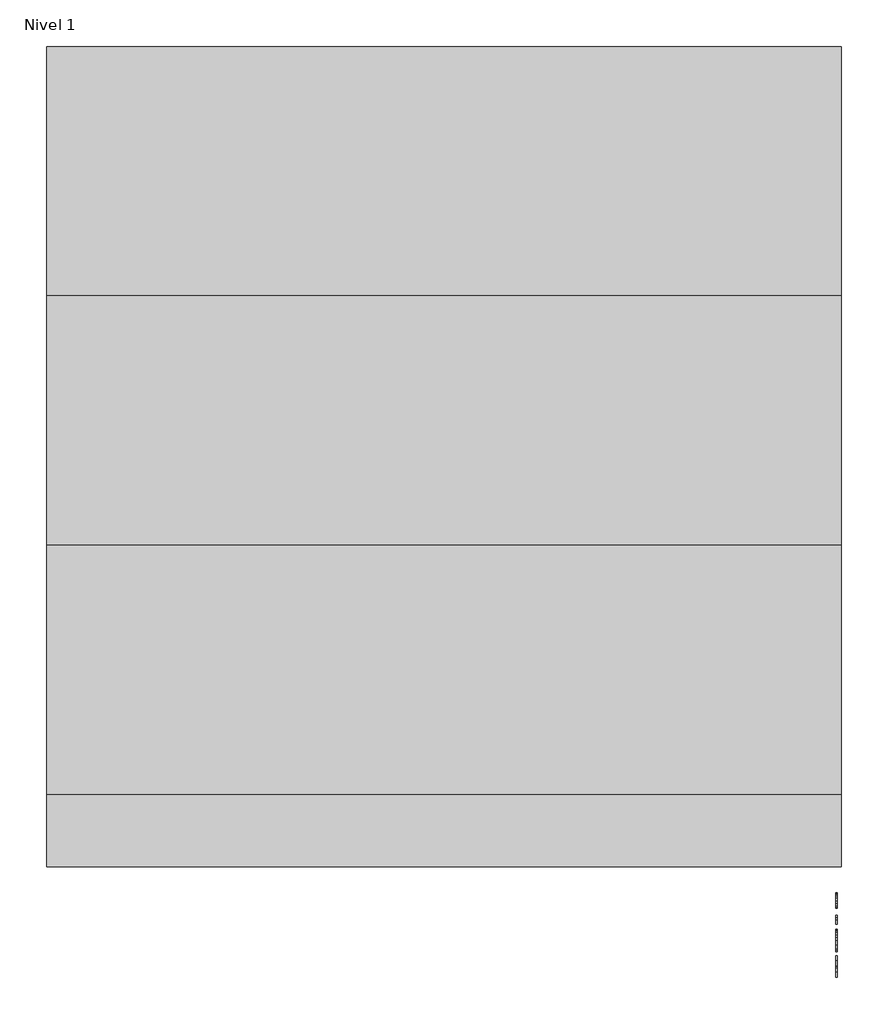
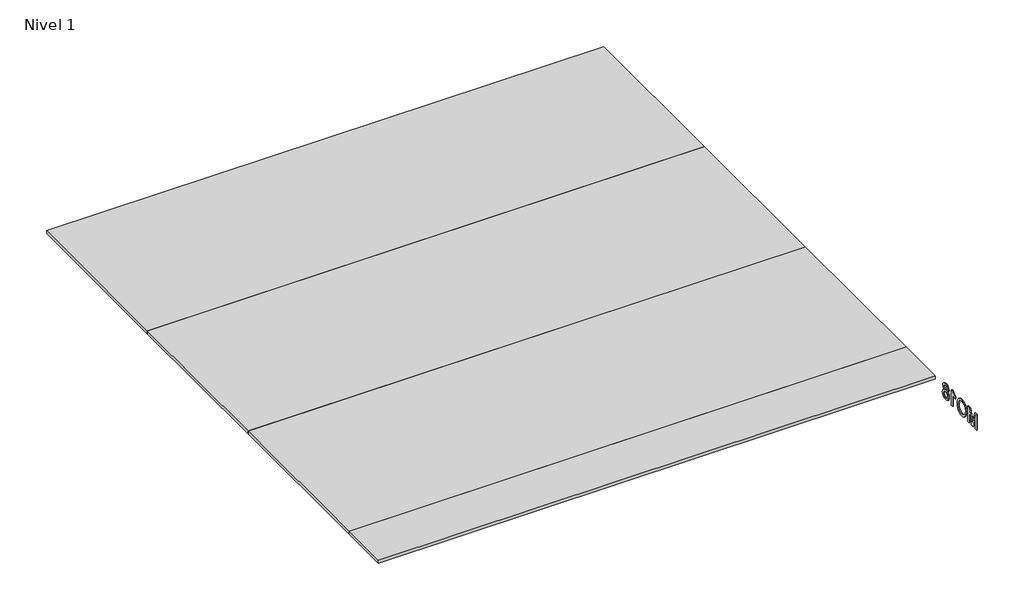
# One storey: 4 plates, 1 proxy.
"""IFC4 building model written with IfcOpenShell, lengths in millimetres."""

import ifcopenshell
import ifcopenshell.guid

model = None  # the IFC model being written
_history = None  # IfcOwnerHistory: only IFC2X3 demands one
_inside = {}  # id of a spatial element -> (the spatial element, [elements in it])
_under = {}  # id of a project, library or spatial element -> (it, [spatial elements below it])
_declared = {}  # id of a project -> (the project, [libraries it declares])
_typed = {}  # id of a type object -> (the type object, [elements of that type])
_made_of = {}  # id of a material, layer set ... -> (it, [elements and type objects made of it])


def new_model(schema):
    """Start an empty IFC model of exactly this schema.

    Asked for "IFC4X3", IfcOpenShell would pick the latest addendum, in which some entities
    have other attributes; the version numbers below select the first issue.
    IFC2X3 requires an IfcOwnerHistory on every rooted entity: one is made here for all.
    """
    global model, _history
    if schema == "IFC4X3":
        model = ifcopenshell.file(schema_version=(4, 3, 0, 0))
    else:
        model = ifcopenshell.file(schema=schema)
    _inside.clear()
    _under.clear()
    _declared.clear()
    _typed.clear()
    _made_of.clear()
    _history = None
    if model.schema == "IFC2X3":
        org = make("IfcOrganization", Name="unknown")
        user = make(
            "IfcPersonAndOrganization",
            ThePerson=make("IfcPerson", FamilyName="unknown"),
            TheOrganization=org,
        )
        app = make(
            "IfcApplication",
            ApplicationDeveloper=org,
            Version="unknown",
            ApplicationFullName="unknown",
            ApplicationIdentifier="unknown",
        )
        _history = make(
            "IfcOwnerHistory",
            OwningUser=user,
            OwningApplication=app,
            ChangeAction="ADDED",
            CreationDate=0,
        )
    return model


def make(cls, **values):
    """One entity of the class cls with the attributes given. An attribute that is None is left unset."""
    return model.create_entity(
        cls, **{name: value for name, value in values.items() if value is not None}
    )


def rooted(cls, **values):
    """An entity with a GlobalId (a new one), such as an element, a storey or a relation."""
    return make(cls, GlobalId=ifcopenshell.guid.new(), OwnerHistory=_history, **values)


def si_unit(unit_type, name, prefix=None):
    """IfcSIUnit, for example si_unit("LENGTHUNIT", "METRE", prefix="MILLI")."""
    return make("IfcSIUnit", UnitType=unit_type, Prefix=prefix, Name=name)


def assignment(units):
    """IfcUnitAssignment: the units of a project."""
    return None if units is None else make("IfcUnitAssignment", Units=units)


def point(xyz):
    """IfcCartesianPoint."""
    return None if xyz is None else make("IfcCartesianPoint", Coordinates=xyz)


def direction(xyz):
    """IfcDirection."""
    return None if xyz is None else make("IfcDirection", DirectionRatios=xyz)


def frame(location, z_axis=None, x_axis=None):
    """IfcAxis2Placement3D, a coordinate frame: its origin and axes. An axis left out is left unset."""
    return make(
        "IfcAxis2Placement3D",
        Location=point(location),
        Axis=direction(z_axis),
        RefDirection=direction(x_axis),
    )


def origin():
    """The frame at (0, 0, 0) with its axes left unset."""
    return frame((0.0, 0.0, 0.0))


def origin_with_axes():
    """The frame at (0, 0, 0) with the z axis (0, 0, 1) and the x axis (1, 0, 0) written out."""
    return frame((0.0, 0.0, 0.0), z_axis=(0.0, 0.0, 1.0), x_axis=(1.0, 0.0, 0.0))


def place(relative_to, where):
    """IfcLocalPlacement: puts the frame where relative to a parent placement (None: the world)."""
    return make(
        "IfcLocalPlacement", PlacementRelTo=relative_to, RelativePlacement=where
    )


def context(
    kind, dimensions, precision=None, world=None, true_north=None, identifier=None
):
    """IfcGeometricRepresentationContext, for example the 3D "Model" context."""
    return make(
        "IfcGeometricRepresentationContext",
        ContextIdentifier=identifier,
        ContextType=kind,
        CoordinateSpaceDimension=dimensions,
        Precision=precision,
        WorldCoordinateSystem=world,
        TrueNorth=true_north,
    )


def project(units=None, contexts=None):
    """IfcProject with its units and contexts."""
    return rooted(
        "IfcProject",
        Name="project",
        RepresentationContexts=contexts,
        UnitsInContext=assignment(units),
    )


def spatial(cls, under=None, at=None, **own):
    """A site, building, storey or space (cls), placed at a placement, below another one or the project."""
    s = rooted(cls, ObjectPlacement=at, **own)
    if under is not None:
        _under.setdefault(under.id(), (under, []))[1].append(s)
    return s


def polyline(points):
    """IfcPolyline through the points."""
    return make("IfcPolyline", Points=[point(p) for p in points])


def outline(outer, holes=None, kind="AREA"):
    """IfcArbitraryClosedProfileDef: a profile drawn as a closed curve; with holes, ...WithVoids."""
    if holes is None:
        return make("IfcArbitraryClosedProfileDef", ProfileType=kind, OuterCurve=outer)
    return make(
        "IfcArbitraryProfileDefWithVoids",
        ProfileType=kind,
        OuterCurve=outer,
        InnerCurves=holes,
    )


def extrude(swept, where, along, depth):
    """IfcExtrudedAreaSolid: the profile swept, set in the frame where, extruded along a direction by depth."""
    return make(
        "IfcExtrudedAreaSolid",
        SweptArea=swept,
        Position=where,
        ExtrudedDirection=direction(along),
        Depth=depth,
    )


def shape(context_of_items, identifier, shape_type, items):
    """IfcShapeRepresentation: the items that make up one representation, for example the "Body"."""
    return make(
        "IfcShapeRepresentation",
        ContextOfItems=context_of_items,
        RepresentationIdentifier=identifier,
        RepresentationType=shape_type,
        Items=items,
    )


def source(mapping_origin, context_of_items, identifier, shape_type, items):
    """IfcRepresentationMap: a shape defined once, which mapped items show again and again."""
    return make(
        "IfcRepresentationMap",
        MappingOrigin=mapping_origin,
        MappedRepresentation=shape(context_of_items, identifier, shape_type, items),
    )


def transform(
    local_origin,
    x_axis=None,
    y_axis=None,
    z_axis=None,
    scale=None,
    scale2=None,
    scale3=None,
    uniform=True,
):
    """IfcCartesianTransformationOperator3D, or its non-uniform kind. x_axis, y_axis, z_axis: its Axis1, 2, 3."""
    if uniform:
        return make(
            "IfcCartesianTransformationOperator3D",
            Axis1=direction(x_axis),
            Axis2=direction(y_axis),
            LocalOrigin=point(local_origin),
            Scale=scale,
            Axis3=direction(z_axis),
        )
    return make(
        "IfcCartesianTransformationOperator3DnonUniform",
        Axis1=direction(x_axis),
        Axis2=direction(y_axis),
        LocalOrigin=point(local_origin),
        Scale=scale,
        Axis3=direction(z_axis),
        Scale2=scale2,
        Scale3=scale3,
    )


def mapped(mapping_source, mapping_target):
    """IfcMappedItem: shows the shape of a source again, moved by a transform."""
    return make(
        "IfcMappedItem", MappingSource=mapping_source, MappingTarget=mapping_target
    )


def made_of(thing, what):
    """Note that an element or type object is made of a material, layer set ...; save() writes the relation."""
    if what is not None:
        _made_of.setdefault(what.id(), (what, []))[1].append(thing)
    return thing


def element(
    cls,
    number,
    at=None,
    inside=None,
    cuts=None,
    type_object=None,
    material=None,
    context=None,
    identifier="Body",
    shape_type=None,
    held_by="IfcProductDefinitionShape",
    body=None,
    shapes=None,
    **own,
):
    """One element of the class cls, such as IfcWall. Its Tag is "e" and its number.

    at: its placement. inside: the storey or other place that contains it. cuts: it is an
    opening in that element (IfcRelVoidsElement). A single representation is given by context,
    identifier, shape_type and body (its items); several are given by shapes. held_by: the class
    of the entity that holds the representations. save() writes the other relations.
    """
    e = rooted(cls, Tag="e%d" % number, ObjectPlacement=at, **own)
    if body is not None:
        shapes = [shape(context, identifier, shape_type, body)]
    if shapes is not None:
        e.Representation = make(held_by, Representations=shapes)
    if inside is not None:
        _inside.setdefault(inside.id(), (inside, []))[1].append(e)
    if cuts is not None:
        rooted(
            "IfcRelVoidsElement", RelatingBuildingElement=cuts, RelatedOpeningElement=e
        )
    if type_object is not None:
        _typed.setdefault(type_object.id(), (type_object, []))[1].append(e)
    return made_of(e, material)


def aggregate(whole, parts):
    """IfcRelAggregates: a whole, such as a stair, and the parts it consists of."""
    return rooted("IfcRelAggregates", RelatingObject=whole, RelatedObjects=parts)


def save(model, path):
    """Write the relations noted so far, then the file.

    IfcRelAggregates (storeys below a building ...), IfcRelContainedInSpatialStructure (elements
    in a storey), IfcRelDefinesByType, IfcRelAssociatesMaterial and IfcRelDeclares: one each for
    every whole, place, type object, material and project.
    """
    for whole, parts in _under.values():
        aggregate(whole, parts)
    for where, things in _inside.values():
        rooted(
            "IfcRelContainedInSpatialStructure",
            RelatedElements=things,
            RelatingStructure=where,
        )
    for kind, things in _typed.values():
        rooted("IfcRelDefinesByType", RelatedObjects=things, RelatingType=kind)
    for what, things in _made_of.values():
        rooted("IfcRelAssociatesMaterial", RelatedObjects=things, RelatingMaterial=what)
    for by, libraries in _declared.values():
        rooted("IfcRelDeclares", RelatingContext=by, RelatedDefinitions=libraries)
    model.write(path)


def panel_del_sistema_6a82baca(model_context):
    return source(origin(), model_context, "Body", "SweptSolid", [
        extrude(outline(polyline([(532.0000002, 0.0), (-532.0000002, 0.0), (-532.0000002, 18.0), (532.0000002, 18.0), (532.0000002, 0.0)])), origin_with_axes(), (0.0, 0.0, 1.0), 3390.8509027),
    ])


def panel_del_sistema_d2400ea1(model_context):
    return source(origin(), model_context, "Body", "SweptSolid", [
        extrude(outline(polyline([(153.9999998, 0.0), (-153.9999998, 0.0), (-153.9999998, 18.0), (153.9999998, 18.0), (153.9999998, 0.0)])), origin_with_axes(), (0.0, 0.0, 1.0), 3390.8509027),
    ])


model = new_model("IFC4")

# Units and contexts
model_context = context("Model", 3, world=origin())
ifc_project = project(units=[si_unit("LENGTHUNIT", "METRE", prefix="MILLI")], contexts=[model_context])

# Site, building, storey
site = spatial("IfcSite", under=ifc_project)
building = spatial("IfcBuilding", under=site)
storey = spatial("IfcBuildingStorey", under=building, Name="Nivel 1", Elevation=0.0)

# Proxy
placement = place(None, origin())
element("IfcBuildingElementProxy", 1, Name="100mm Arial", ObjectType="100mm Arial", at=placement, inside=storey, context=model_context, shape_type="SweptSolid", body=[
    extrude(outline(polyline([(14825.7599352, -67.141573), (14825.7599352, 33.3147371), (14847.3668711, 33.3147371), (14867.9192119, -37.4902842), (14872.0640157, -52.2791404), (14876.552176, -36.2640109), (14896.7611603, 33.3147371), (14918.3680961, 33.3147371), (14918.3680961, -67.141573), (14905.8110574, -67.141573), (14905.8110574, 20.7576984), (14880.5743525, -67.141573), (14863.5536789, -67.141573), (14838.316974, 20.7576984), (14838.316974, -67.141573), (14825.7599352, -67.141573)])), frame((9557.0230098, 0.0, 0.0), z_axis=(1.0, 0.0, 0.0), x_axis=(0.0, 1.0, 0.0)), (0.0, 0.0, 1.0), 5.0),
    extrude(outline(polyline([(14935.6340244, -18.2377931), (14938.9817506, 3.976148), (14949.0249291, 20.7822238), (14964.3594769, 31.3588312), (14983.5813112, 34.884367), (14996.7576179, 33.228898), (15008.5727614, 28.2624911), (15018.3829479, 20.3346341), (15025.5443841, 9.7948149), (15029.9221798, -2.848063), (15031.3814451, -17.0850962), (15029.8455377, -31.5122018), (15025.2378157, -44.3328893), (15017.8127308, -54.8911026), (15007.8247346, -62.5307854), (14996.1107588, -67.1660985), (14983.5077348, -68.7112029), (14970.1290929, -67.0036173), (14958.2465044, -61.8808605), (14948.4608433, -53.8058507), (14941.3729836, -43.2415061), (14935.6340244, -18.2377931)]), holes=[polyline([(14948.1910632, -18.3604205), (14950.7018578, -34.075113), (14958.2342417, -46.049672), (14969.5558101, -53.6280411), (14983.4341584, -56.1541641), (14997.5148417, -53.6035156), (15008.8548042, -45.9515701), (15016.3320058, -33.6091292), (15018.8244063, -16.9869944), (15014.5569751, 3.7370247), (15002.0857755, 17.4590231), (14983.6548876, 22.3273282), (14970.147487, 19.9820805), (14958.6634373, 12.9463373), (14950.8091568, 0.4291524), (14948.1910632, -18.3604205)])]), frame((9557.0230098, 0.0, 0.0), z_axis=(1.0, 0.0, 0.0), x_axis=(0.0, 1.0, 0.0)), (0.0, 0.0, 1.0), 5.0),
    extrude(outline(polyline([(15091.0273792, -67.141573), (15078.4703404, -67.141573), (15078.4703404, 11.1437155), (15066.5754893, 2.6701669), (15053.3562629, -3.6696661), (15053.3562629, 8.2006596), (15071.7626254, 19.948358), (15082.9339753, 33.3147371), (15091.0273792, 33.3147371), (15091.0273792, -67.141573)])), frame((9557.0230098, 0.0, 0.0), z_axis=(1.0, 0.0, 0.0), x_axis=(0.0, 1.0, 0.0)), (0.0, 0.0, 1.0), 5.0),
    extrude(outline(polyline([(15139.1463442, -11.812121), (15127.7052141, -4.0130227), (15123.989606, 8.1270832), (15126.012957, 17.9434011), (15132.0830099, 26.0551991), (15141.5191831, 31.4998526), (15153.6408948, 33.3147371), (15165.8361829, 31.456933), (15175.3949834, 25.8835208), (15181.575401, 17.6429641), (15183.6355401, 7.7837267), (15179.9689829, -4.0498109), (15168.8466839, -11.812121), (15182.2008004, -21.6590957), (15186.7747998, -37.9072171), (15184.5061942, -49.9124329), (15177.7003773, -59.8329841), (15167.1912149, -66.4916482), (15153.8125731, -68.7112029), (15140.4339312, -66.4824511), (15129.9247688, -59.7961959), (15123.1189519, -49.7806085), (15120.8503463, -37.5638606), (15125.6082868, -20.9355944), (15139.1463442, -11.812121)]), holes=[polyline([(15133.4073851, -37.1224022), (15135.5043124, -46.5769695), (15142.923266, -53.6525665), (15153.9106749, -56.1541641), (15162.4577999, -54.838986), (15168.8712094, -50.8934516), (15174.2177611, -37.5148097), (15168.6995311, -23.8786504), (15162.1389689, -19.8319485), (15153.493742, -18.4830478), (15145.0661786, -19.8135544), (15138.7171485, -23.805074), (15133.4073851, -37.1224022)]), polyline([(15136.5466447, 7.7592012), (15140.9980169, -2.1000363), (15153.9597259, -5.926009), (15166.6639174, -2.1245617), (15171.0785014, 7.1951155), (15166.5167646, 16.8458865), (15153.8125731, 20.7576984), (15141.0715933, 16.9317256), (15136.5466447, 7.7592012)])]), frame((9557.0230098, 0.0, 0.0), z_axis=(1.0, 0.0, 0.0), x_axis=(0.0, 1.0, 0.0)), (0.0, 0.0, 1.0), 5.0),
])

# Plates
panel_del_sistema_shape = panel_del_sistema_6a82baca(model_context)
element("IfcPlate", 2, ObjectType="Panel del sistema : HIANSA - CHAPA PERFILADA CUBIERTA - MO18", at=placement, inside=storey, context=model_context, shape_type="MappedRepresentation", body=[
    mapped(panel_del_sistema_shape, transform((9579.0356399, 18266.3330794, -29.5962409), x_axis=(0.0, -1.0, 0.0), y_axis=(0.0, 0.0, 1.0), z_axis=(-1.0, 0.0, 0.0))),
])
element("IfcPlate", 3, ObjectType="Panel del sistema : HIANSA - CHAPA PERFILADA CUBIERTA - MO18", at=placement, inside=storey, context=model_context, shape_type="MappedRepresentation", body=[
    mapped(panel_del_sistema_shape, transform((9579.0356399, 17202.3330793, -29.5962409), x_axis=(0.0, -1.0, 0.0), y_axis=(0.0, 0.0, 1.0), z_axis=(-1.0, 0.0, 0.0))),
])
element("IfcPlate", 4, ObjectType="Panel del sistema : HIANSA - CHAPA PERFILADA CUBIERTA - MO18", at=placement, inside=storey, context=model_context, shape_type="MappedRepresentation", body=[
    mapped(panel_del_sistema_shape, transform((9579.0356399, 16138.3330793, -29.5962409), x_axis=(0.0, -1.0, 0.0), y_axis=(0.0, 0.0, 1.0), z_axis=(-1.0, 0.0, 0.0))),
])
panel_del_sistema_2_shape = panel_del_sistema_d2400ea1(model_context)
element("IfcPlate", 5, ObjectType="Panel del sistema : HIANSA - CHAPA PERFILADA CUBIERTA - MO18", at=placement, inside=storey, context=model_context, shape_type="MappedRepresentation", body=[
    mapped(panel_del_sistema_2_shape, transform((9579.0356399, 15452.3330794, -29.5962409), x_axis=(0.0, -1.0, 0.0), y_axis=(0.0, 0.0, 1.0), z_axis=(-1.0, 0.0, 0.0))),
])

save(model, "model.ifc")
